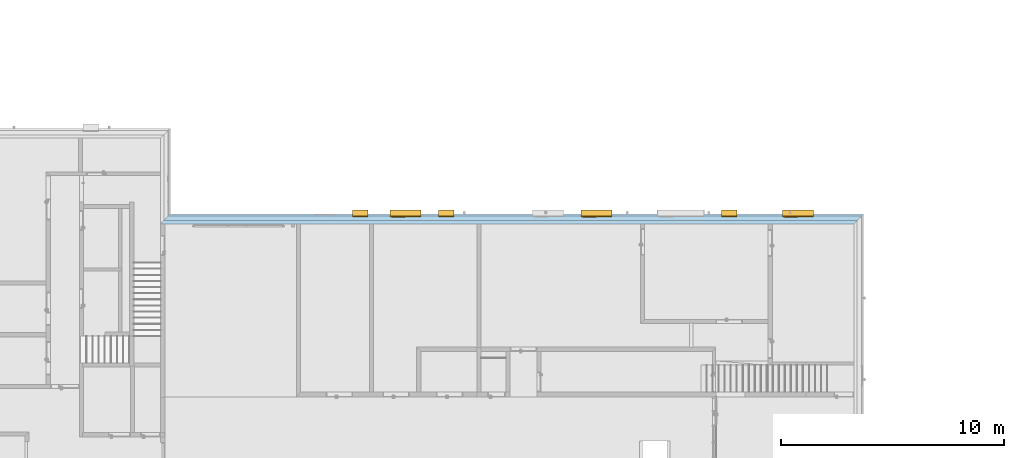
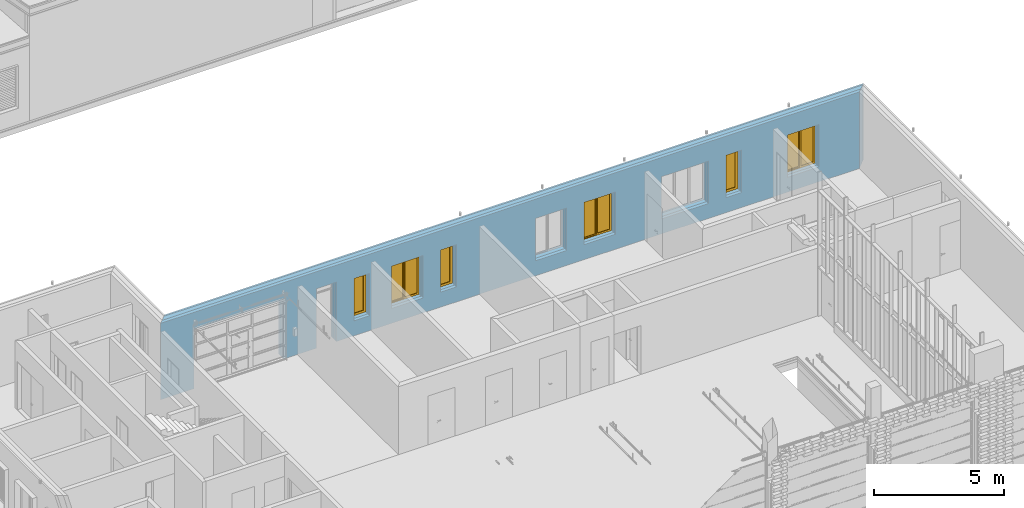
# One storey, part 20 of 62: 6 windows, 10 openings, 1 element without a shape of its own, plus 3 elements that do not belong to this part.
"""IFC2X3 building model written with IfcOpenShell, lengths in millimetres."""

from ifc_helpers import new_model, entity, si_unit, converted_unit, derived_unit, money_unit, direction, frame, origin_with_axes, origin_2d_with_axis, place, context, subcontext, project, spatial, polyline, rectangle, outline, extrude, open_shell, faceted_brep, surface_model, source, transform, mapped, material, type_object, element, fill, aggregate, save


model = new_model("IFC2X3")

# Units and contexts
model_context = context("Model", 3, precision=0.01, world=origin_with_axes(), true_north=direction((0.0, 1.0)))
body_context = subcontext(model_context, "Body", "Model", "MODEL_VIEW")
ifc_project = project(units=[si_unit("LENGTHUNIT", "METRE", prefix="MILLI"), si_unit("AREAUNIT", "SQUARE_METRE"), si_unit("VOLUMEUNIT", "CUBIC_METRE"), converted_unit("PLANEANGLEUNIT", "DEGREE", entity("IfcPlaneAngleMeasure", 0.0174532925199), si_unit("PLANEANGLEUNIT", "RADIAN"), dimensions=[0, 0, 0, 0, 0, 0, 0]), si_unit("SOLIDANGLEUNIT", "STERADIAN"), money_unit("EUR"), converted_unit("TIMEUNIT", "Year", entity("IfcTimeMeasure", 31556926.0), si_unit("TIMEUNIT", "SECOND"), dimensions=[0, 0, 1, 0, 0, 0, 0]), si_unit("MASSUNIT", "GRAM", prefix="KILO"), si_unit("THERMODYNAMICTEMPERATUREUNIT", "DEGREE_CELSIUS"), si_unit("LUMINOUSINTENSITYUNIT", "LUMEN"), si_unit("ENERGYUNIT", "JOULE", prefix="MEGA"), derived_unit("THERMALCONDUCTANCEUNIT", [(si_unit("POWERUNIT", "WATT"), 1), (si_unit("LENGTHUNIT", "METRE"), -1), (si_unit("THERMODYNAMICTEMPERATUREUNIT", "KELVIN"), -1)]), derived_unit("SPECIFICHEATCAPACITYUNIT", [(si_unit("ENERGYUNIT", "JOULE"), 1), (si_unit("MASSUNIT", "GRAM", prefix="KILO"), -1), (si_unit("THERMODYNAMICTEMPERATUREUNIT", "KELVIN"), -1)]), derived_unit("MASSDENSITYUNIT", [(si_unit("MASSUNIT", "GRAM", prefix="KILO"), 1), (si_unit("VOLUMEUNIT", "CUBIC_METRE"), -1)])], contexts=[model_context])

# Site, building, storey
site_placement = place(None, origin_with_axes())
site = spatial("IfcSite", under=ifc_project, at=site_placement, Name="KIRDE 14, ELVA", CompositionType="ELEMENT")
building_placement = place(site_placement, origin_with_axes())
building = spatial("IfcBuilding", under=site, at=building_placement, Name="PPA ja Päästeameti ühishoone", CompositionType="ELEMENT")
storey_placement = place(building_placement, origin_with_axes())
storey = spatial("IfcBuildingStorey", under=building, at=storey_placement, Name="Esimene korrus", CompositionType="ELEMENT", Elevation=0.0)

# Window
window_style_1 = type_object("IfcWindowStyle", Name="Double Window 24", ConstructionType="NOTDEFINED", OperationType="DOUBLE_PANEL_VERTICAL", ParameterTakesPrecedence=False, Sizeable=False)
shared_shape_1 = source(origin_with_axes(), body_context, "Body", "SurfaceModel", [
    faceted_brep([(700.0, -50.0, 0.0), (700.0, -130.0, 0.0), (-700.0, -130.0, 0.0), (-700.0, -50.0, 0.0), (700.0, -50.0, 2000.0), (700.0, -130.0, 2000.0), (-700.0, -130.0, 2000.0), (695.0, -130.0, 5.0), (-695.0, -130.0, 5.0), (-695.0, -130.0, 1995.0), (695.0, -130.0, 1995.0), (-700.0, -50.0, 2000.0), (695.0, -50.0, 5.0), (695.0, -50.0, 1995.0), (-695.0, -50.0, 1995.0), (-695.0, -50.0, 5.0)], [[[0, 1, 2, 3]], [[4, 5, 1, 0]], [[1, 5, 6, 2], [7, 8, 9, 10]], [[3, 2, 6, 11]], [[0, 3, 11, 4], [12, 13, 14, 15]], [[11, 6, 5, 4]], [[15, 8, 7, 12]], [[14, 9, 8, 15]], [[13, 10, 9, 14]], [[12, 7, 10, 13]]]),
    faceted_brep([(700.0, -330.0, 0.0), (695.0, -330.0, 5.0), (695.0, -130.0, 5.0), (700.0, -130.0, 0.0), (700.0, -330.0, 2000.0), (695.0, -330.0, 1995.0), (695.0, -130.0, 1995.0), (700.0, -130.0, 2000.0)], [[[0, 1, 2, 3]], [[0, 4, 5, 1]], [[1, 5, 6, 2]], [[3, 2, 6, 7]], [[4, 0, 3, 7]], [[5, 4, 7, 6]]]),
    faceted_brep([(-700.0, -330.0, 2000.0), (-695.0, -330.0, 1995.0), (-695.0, -130.0, 1995.0), (-700.0, -130.0, 2000.0), (-700.0, -330.0, 0.0), (-695.0, -330.0, 5.0), (-695.0, -130.0, 5.0), (-700.0, -130.0, 0.0)], [[[0, 1, 2, 3]], [[0, 4, 5, 1]], [[1, 5, 6, 2]], [[3, 2, 6, 7]], [[4, 0, 3, 7]], [[5, 4, 7, 6]]]),
    faceted_brep([(-700.0, -330.0, 0.0), (-695.0, -330.0, 5.0), (-695.0, -130.0, 5.0), (-700.0, -130.0, 0.0), (700.0, -330.0, 0.0), (695.0, -330.0, 5.0), (695.0, -130.0, 5.0), (700.0, -130.0, 0.0)], [[[0, 1, 2, 3]], [[0, 4, 5, 1]], [[1, 5, 6, 2]], [[3, 2, 6, 7]], [[4, 0, 3, 7]], [[5, 4, 7, 6]]]),
    faceted_brep([(700.0, -330.0, 2000.0), (695.0, -330.0, 1995.0), (695.0, -130.0, 1995.0), (700.0, -130.0, 2000.0), (-700.0, -330.0, 2000.0), (-695.0, -330.0, 1995.0), (-695.0, -130.0, 1995.0), (-700.0, -130.0, 2000.0)], [[[0, 1, 2, 3]], [[0, 4, 5, 1]], [[1, 5, 6, 2]], [[3, 2, 6, 7]], [[4, 0, 3, 7]], [[5, 4, 7, 6]]]),
    faceted_brep([(635.0, 0.0, 1910.0), (635.0, -25.0, 1910.0), (610.0, -25.0, 1910.0), (610.0, -50.0, 1910.0), (700.0, -50.0, 1910.0), (700.0, 0.0, 1910.0), (635.0, 0.0, 90.0), (635.0, -25.0, 90.0), (610.0, -25.0, 90.0), (610.0, -50.0, 90.0), (700.0, -50.0, 90.0), (700.0, 0.0, 90.0)], [[[0, 1, 2, 3, 4, 5]], [[1, 0, 6, 7]], [[8, 2, 1, 7]], [[2, 8, 9, 3]], [[4, 3, 9, 10]], [[5, 4, 10, 11]], [[6, 0, 5, 11]], [[7, 6, 11, 10, 9, 8]]]),
    faceted_brep([(20.0, -25.0, 1910.0), (-5.0, -25.0, 1910.0), (-5.0, 0.0, 1910.0), (-70.0, 0.0, 1910.0), (-70.0, -50.0, 1910.0), (20.0, -50.0, 1910.0), (20.0, -25.0, 90.0), (-5.0, -25.0, 90.0), (-5.0, 0.0, 90.0), (-70.0, 0.0, 90.0), (-70.0, -50.0, 90.0), (20.0, -50.0, 90.0)], [[[0, 1, 2, 3, 4, 5]], [[1, 0, 6, 7]], [[8, 2, 1, 7]], [[2, 8, 9, 3]], [[9, 10, 4, 3]], [[10, 11, 5, 4]], [[6, 0, 5, 11]], [[7, 6, 11, 10, 9, 8]]]),
    faceted_brep([(20.0, -25.0, 90.0), (-5.0, -25.0, 90.0), (-5.0, 0.0, 90.0), (-70.0, 0.0, 90.0), (-70.0, -50.0, 90.0), (20.0, -50.0, 90.0), (610.0, -25.0, 90.0), (635.0, -25.0, 90.0), (635.0, -25.0, 65.0), (-5.0, -25.0, 65.0), (-5.0, 0.0, 65.0), (635.0, 0.0, 65.0), (635.0, 0.0, 90.0), (700.0, 0.0, 90.0), (700.0, 0.0, 0.0), (-700.0, 0.0, 0.0), (-700.0, 0.0, 90.0), (-610.0, 0.0, 90.0), (-610.0, -50.0, 90.0), (700.0, -50.0, 90.0), (610.0, -50.0, 90.0), (-700.0, -50.0, 90.0), (-700.0, -50.0, 0.0), (700.0, -50.0, 0.0)], [[[0, 1, 2, 3, 4, 5]], [[1, 0, 6, 7, 8, 9]], [[10, 2, 1, 9]], [[11, 12, 13, 14, 15, 16, 17, 3, 2, 10]], [[17, 18, 4, 3]], [[19, 20, 5, 4, 18, 21, 22, 23]], [[6, 0, 5, 20]], [[7, 6, 20, 19, 13, 12]], [[7, 12, 11, 8]], [[11, 10, 9, 8]], [[13, 19, 23, 14]], [[14, 23, 22, 15]], [[15, 22, 21, 16]], [[16, 21, 18, 17]]]),
    faceted_brep([(635.0, 0.0, 1910.0), (635.0, 0.0, 1935.0), (-5.0, 0.0, 1935.0), (-5.0, 0.0, 1910.0), (-70.0, 0.0, 1910.0), (-610.0, 0.0, 1910.0), (-700.0, 0.0, 1910.0), (-700.0, 0.0, 2000.0), (700.0, 0.0, 2000.0), (700.0, 0.0, 1910.0), (635.0, -25.0, 1910.0), (635.0, -25.0, 1935.0), (-5.0, -25.0, 1935.0), (-5.0, -25.0, 1910.0), (20.0, -25.0, 1910.0), (20.0, -50.0, 1910.0), (-70.0, -50.0, 1910.0), (-610.0, -50.0, 1910.0), (-700.0, -50.0, 1910.0), (-700.0, -50.0, 2000.0), (700.0, -50.0, 2000.0), (700.0, -50.0, 1910.0), (610.0, -50.0, 1910.0), (610.0, -25.0, 1910.0)], [[[0, 1, 2, 3, 4, 5, 6, 7, 8, 9]], [[1, 0, 10, 11]], [[2, 1, 11, 12]], [[3, 2, 12, 13]], [[13, 14, 15, 16, 4, 3]], [[4, 16, 17, 5]], [[5, 17, 18, 6]], [[6, 18, 19, 7]], [[7, 19, 20, 8]], [[8, 20, 21, 9]], [[10, 0, 9, 21, 22, 23]], [[14, 13, 12, 11, 10, 23]], [[14, 23, 22, 15]], [[16, 15, 22, 21, 20, 19, 18, 17]]]),
    faceted_brep([(-610.0, -50.0, 90.0), (-700.0, -50.0, 90.0), (-700.0, 0.0, 90.0), (-610.0, 0.0, 90.0), (-610.0, -50.0, 1910.0), (-700.0, -50.0, 1910.0), (-700.0, 0.0, 1910.0), (-610.0, 0.0, 1910.0)], [[[0, 1, 2, 3]], [[0, 4, 5, 1]], [[1, 5, 6, 2]], [[3, 2, 6, 7]], [[4, 0, 3, 7]], [[5, 4, 7, 6]]]),
    faceted_brep([(585.0, -25.0, 1885.0), (635.0, -25.0, 1885.0), (635.0, 25.0, 1885.0), (585.0, 25.0, 1885.0), (585.0, -25.0, 115.0), (635.0, -25.0, 115.0), (635.0, 25.0, 115.0), (585.0, 25.0, 115.0)], [[[0, 1, 2, 3]], [[0, 4, 5, 1]], [[1, 5, 6, 2]], [[3, 2, 6, 7]], [[4, 0, 3, 7]], [[5, 4, 7, 6]]]),
    faceted_brep([(45.0, -25.0, 115.0), (-5.0, -25.0, 115.0), (-5.0, 25.0, 115.0), (45.0, 25.0, 115.0), (45.0, -25.0, 1885.0), (-5.0, -25.0, 1885.0), (-5.0, 25.0, 1885.0), (45.0, 25.0, 1885.0)], [[[0, 1, 2, 3]], [[0, 4, 5, 1]], [[1, 5, 6, 2]], [[3, 2, 6, 7]], [[4, 0, 3, 7]], [[5, 4, 7, 6]]]),
    faceted_brep([(-5.0, -25.0, 65.0), (-5.0, -25.0, 115.0), (-5.0, 25.0, 115.0), (-5.0, 25.0, 65.0), (635.0, -25.0, 65.0), (635.0, -25.0, 115.0), (585.0, -25.0, 115.0), (45.0, -25.0, 115.0), (45.0, 25.0, 115.0), (585.0, 25.0, 115.0), (635.0, 25.0, 115.0), (635.0, 25.0, 65.0)], [[[0, 1, 2, 3]], [[0, 4, 5, 6, 7, 1]], [[1, 7, 8, 2]], [[3, 2, 8, 9, 10, 11]], [[4, 0, 3, 11]], [[5, 4, 11, 10]], [[6, 5, 10, 9]], [[7, 6, 9, 8]]]),
    faceted_brep([(635.0, -25.0, 1935.0), (635.0, -25.0, 1885.0), (635.0, 25.0, 1885.0), (635.0, 25.0, 1935.0), (-5.0, -25.0, 1935.0), (-5.0, -25.0, 1885.0), (45.0, -25.0, 1885.0), (585.0, -25.0, 1885.0), (585.0, 25.0, 1885.0), (45.0, 25.0, 1885.0), (-5.0, 25.0, 1885.0), (-5.0, 25.0, 1935.0)], [[[0, 1, 2, 3]], [[0, 4, 5, 6, 7, 1]], [[1, 7, 8, 2]], [[3, 2, 8, 9, 10, 11]], [[4, 0, 3, 11]], [[5, 4, 11, 10]], [[6, 5, 10, 9]], [[7, 6, 9, 8]]]),
    surface_model("IfcShellBasedSurfaceModel", [(585.0, -10.0, 115.0), (585.0, -10.0, 1885.0), (45.0, -10.0, 1885.0), (45.0, -10.0, 115.0)], [open_shell([[[0, 1, 2, 3]]])]),
    surface_model("IfcShellBasedSurfaceModel", [(585.0, 10.0, 115.0), (45.0, 10.0, 115.0), (45.0, 10.0, 1885.0), (585.0, 10.0, 1885.0)], [open_shell([[[0, 1, 2, 3]]])]),
    surface_model("IfcShellBasedSurfaceModel", [(-70.0, -35.0, 90.0), (-70.0, -35.0, 1910.0), (-610.0, -35.0, 1910.0), (-610.0, -35.0, 90.0)], [open_shell([[[0, 1, 2, 3]]])]),
    surface_model("IfcShellBasedSurfaceModel", [(-70.0, -15.0, 90.0), (-610.0, -15.0, 90.0), (-610.0, -15.0, 1910.0), (-70.0, -15.0, 1910.0)], [open_shell([[[0, 1, 2, 3]]])]),
])
wall_placement = place(storey_placement, frame((8900.00012331, 20749.5916292, 0.0), z_axis=(0.0, 0.0, 1.0), x_axis=(1.0, 3.88740030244e-10, 0.0)))
opening_3_placement = place(wall_placement, frame((28639.6518059, 0.0, 700.0), z_axis=(0.0, 0.0, 1.0), x_axis=(1.0, 0.0, 0.0)))
window_1_placement = place(opening_3_placement, frame((700.0, 0.0, 0.0), z_axis=(0.0, 0.0, 1.0), x_axis=(-1.0, 0.0, 0.0)))
window_1 = element("IfcWindow", 1, at=window_1_placement, inside=storey, type_object=window_style_1, Name="A-05", ObjectType="WINDOW", OverallHeight=2000.0, OverallWidth=1400.0, context=body_context, shape_type="MappedRepresentation", body=[
    mapped(shared_shape_1, transform((699.999999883, -299.999988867, 0.0))),
])

opening_4_placement = place(wall_placement, frame((19579.6518059, 0.0, 700.0), z_axis=(0.0, 0.0, 1.0), x_axis=(1.0, 0.0, 0.0)))
window_2_placement = place(opening_4_placement, frame((700.0, 0.0, 0.0), z_axis=(0.0, 0.0, 1.0), x_axis=(-1.0, 0.0, 0.0)))
window_2 = element("IfcWindow", 2, at=window_2_placement, inside=storey, type_object=window_style_1, Name="A-05", ObjectType="WINDOW", OverallHeight=2000.0, OverallWidth=1400.0, context=body_context, shape_type="MappedRepresentation", body=[
    mapped(shared_shape_1, transform((699.999999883, -299.999992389, 0.0))),
])

opening_6_placement = place(wall_placement, frame((10999.651806, 0.0, 700.0), z_axis=(0.0, 0.0, 1.0), x_axis=(1.0, 0.0, 0.0)))
window_3_placement = place(opening_6_placement, frame((700.0, 0.0, 0.0), z_axis=(0.0, 0.0, 1.0), x_axis=(-1.0, 0.0, 0.0)))
window_3 = element("IfcWindow", 3, at=window_3_placement, inside=storey, type_object=window_style_1, Name="A-05", ObjectType="WINDOW", OverallHeight=2000.0, OverallWidth=1400.0, context=body_context, shape_type="MappedRepresentation", body=[
    mapped(shared_shape_1, transform((699.999999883, -299.999995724, 0.0))),
])

window_style_2 = type_object("IfcWindowStyle", Name="Window 24", ConstructionType="NOTDEFINED", OperationType="SINGLE_PANEL", ParameterTakesPrecedence=False, Sizeable=False)
shared_shape_2 = source(origin_with_axes(), body_context, "Body", "SurfaceModel", [
    faceted_brep([(350.0, -50.0, 0.0), (350.0, -130.0, 0.0), (-350.0, -130.0, 0.0), (-350.0, -50.0, 0.0), (350.0, -50.0, 2000.0), (350.0, -130.0, 2000.0), (-350.0, -130.0, 2000.0), (345.0, -130.0, 5.0), (-345.0, -130.0, 5.0), (-345.0, -130.0, 1995.0), (345.0, -130.0, 1995.0), (-350.0, -50.0, 2000.0), (345.0, -50.0, 5.0), (345.0, -50.0, 1995.0), (-345.0, -50.0, 1995.0), (-345.0, -50.0, 5.0)], [[[0, 1, 2, 3]], [[4, 5, 1, 0]], [[1, 5, 6, 2], [7, 8, 9, 10]], [[3, 2, 6, 11]], [[0, 3, 11, 4], [12, 13, 14, 15]], [[11, 6, 5, 4]], [[15, 8, 7, 12]], [[14, 9, 8, 15]], [[13, 10, 9, 14]], [[12, 7, 10, 13]]]),
    faceted_brep([(350.0, -330.0, 0.0), (345.0, -330.0, 5.0), (345.0, -130.0, 5.0), (350.0, -130.0, 0.0), (350.0, -330.0, 2000.0), (345.0, -330.0, 1995.0), (345.0, -130.0, 1995.0), (350.0, -130.0, 2000.0)], [[[0, 1, 2, 3]], [[0, 4, 5, 1]], [[1, 5, 6, 2]], [[3, 2, 6, 7]], [[4, 0, 3, 7]], [[5, 4, 7, 6]]]),
    faceted_brep([(-350.0, -330.0, 2000.0), (-345.0, -330.0, 1995.0), (-345.0, -130.0, 1995.0), (-350.0, -130.0, 2000.0), (-350.0, -330.0, 0.0), (-345.0, -330.0, 5.0), (-345.0, -130.0, 5.0), (-350.0, -130.0, 0.0)], [[[0, 1, 2, 3]], [[0, 4, 5, 1]], [[1, 5, 6, 2]], [[3, 2, 6, 7]], [[4, 0, 3, 7]], [[5, 4, 7, 6]]]),
    faceted_brep([(-350.0, -330.0, 0.0), (-345.0, -330.0, 5.0), (-345.0, -130.0, 5.0), (-350.0, -130.0, 0.0), (350.0, -330.0, 0.0), (345.0, -330.0, 5.0), (345.0, -130.0, 5.0), (350.0, -130.0, 0.0)], [[[0, 1, 2, 3]], [[0, 4, 5, 1]], [[1, 5, 6, 2]], [[3, 2, 6, 7]], [[4, 0, 3, 7]], [[5, 4, 7, 6]]]),
    faceted_brep([(350.0, -330.0, 2000.0), (345.0, -330.0, 1995.0), (345.0, -130.0, 1995.0), (350.0, -130.0, 2000.0), (-350.0, -330.0, 2000.0), (-345.0, -330.0, 1995.0), (-345.0, -130.0, 1995.0), (-350.0, -130.0, 2000.0)], [[[0, 1, 2, 3]], [[0, 4, 5, 1]], [[1, 5, 6, 2]], [[3, 2, 6, 7]], [[4, 0, 3, 7]], [[5, 4, 7, 6]]]),
    faceted_brep([(235.0, -50.0, 1885.0), (350.0, -50.0, 1885.0), (350.0, 0.0, 1885.0), (235.0, 0.0, 1885.0), (235.0, -50.0, 115.0), (350.0, -50.0, 115.0), (350.0, 0.0, 115.0), (235.0, 0.0, 115.0)], [[[0, 1, 2, 3]], [[0, 4, 5, 1]], [[1, 5, 6, 2]], [[3, 2, 6, 7]], [[4, 0, 3, 7]], [[5, 4, 7, 6]]]),
    faceted_brep([(-235.0, -50.0, 115.0), (-350.0, -50.0, 115.0), (-350.0, 0.0, 115.0), (-235.0, 0.0, 115.0), (-235.0, -50.0, 1885.0), (-350.0, -50.0, 1885.0), (-350.0, 0.0, 1885.0), (-235.0, 0.0, 1885.0)], [[[0, 1, 2, 3]], [[0, 4, 5, 1]], [[1, 5, 6, 2]], [[3, 2, 6, 7]], [[4, 0, 3, 7]], [[5, 4, 7, 6]]]),
    faceted_brep([(235.0, -50.0, 115.0), (350.0, -50.0, 115.0), (350.0, 0.0, 115.0), (235.0, 0.0, 115.0), (-235.0, -50.0, 115.0), (-350.0, -50.0, 115.0), (-350.0, -50.0, 0.0), (350.0, -50.0, 0.0), (350.0, 0.0, 0.0), (-350.0, 0.0, 0.0), (-350.0, 0.0, 115.0), (-235.0, 0.0, 115.0)], [[[0, 1, 2, 3]], [[0, 4, 5, 6, 7, 1]], [[1, 7, 8, 2]], [[3, 2, 8, 9, 10, 11]], [[4, 0, 3, 11]], [[5, 4, 11, 10]], [[6, 5, 10, 9]], [[7, 6, 9, 8]]]),
    faceted_brep([(-235.0, -50.0, 1885.0), (-350.0, -50.0, 1885.0), (-350.0, 0.0, 1885.0), (-235.0, 0.0, 1885.0), (235.0, -50.0, 1885.0), (350.0, -50.0, 1885.0), (350.0, -50.0, 2000.0), (-350.0, -50.0, 2000.0), (-350.0, 0.0, 2000.0), (350.0, 0.0, 2000.0), (350.0, 0.0, 1885.0), (235.0, 0.0, 1885.0)], [[[0, 1, 2, 3]], [[0, 4, 5, 6, 7, 1]], [[1, 7, 8, 2]], [[3, 2, 8, 9, 10, 11]], [[4, 0, 3, 11]], [[5, 4, 11, 10]], [[6, 5, 10, 9]], [[7, 6, 9, 8]]]),
    surface_model("IfcShellBasedSurfaceModel", [(235.0, -35.0, 115.0), (235.0, -35.0, 1885.0), (-235.0, -35.0, 1885.0), (-235.0, -35.0, 115.0)], [open_shell([[[0, 1, 2, 3]]])]),
    surface_model("IfcShellBasedSurfaceModel", [(235.0, -15.0, 115.0), (-235.0, -15.0, 115.0), (-235.0, -15.0, 1885.0), (235.0, -15.0, 1885.0)], [open_shell([[[0, 1, 2, 3]]])]),
])
opening_5_placement = place(wall_placement, frame((25549.6518059, 0.0, 700.0), z_axis=(0.0, 0.0, 1.0), x_axis=(1.0, 0.0, 0.0)))
window_4_placement = place(opening_5_placement, frame((350.0, 0.0, 0.0), z_axis=(0.0, 0.0, 1.0), x_axis=(-1.0, 0.0, 0.0)))
window_4 = element("IfcWindow", 4, at=window_4_placement, inside=storey, type_object=window_style_2, Name="A-01", ObjectType="WINDOW", OverallHeight=2000.0, OverallWidth=700.0, context=body_context, shape_type="MappedRepresentation", body=[
    mapped(shared_shape_2, transform((349.999999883, -299.999990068, 0.0))),
])

opening_7_placement = place(wall_placement, frame((12829.6518059, 0.0, 700.0), z_axis=(0.0, 0.0, 1.0), x_axis=(1.0, 0.0, 0.0)))
window_5_placement = place(opening_7_placement, frame((350.0, 0.0, 0.0), z_axis=(0.0, 0.0, 1.0), x_axis=(-1.0, 0.0, 0.0)))
window_5 = element("IfcWindow", 5, at=window_5_placement, inside=storey, type_object=window_style_2, Name="A-01", ObjectType="WINDOW", OverallHeight=2000.0, OverallWidth=700.0, context=body_context, shape_type="MappedRepresentation", body=[
    mapped(shared_shape_2, transform((349.999999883, -299.999995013, 0.0))),
])

opening_8_placement = place(wall_placement, frame((8972.13083165, 0.0, 700.0), z_axis=(0.0, 0.0, 1.0), x_axis=(1.0, 0.0, 0.0)))
window_6_placement = place(opening_8_placement, frame((350.0, 0.0, 0.0), z_axis=(0.0, 0.0, 1.0), x_axis=(-1.0, 0.0, 0.0)))
window_6 = element("IfcWindow", 6, at=window_6_placement, inside=storey, type_object=window_style_2, Name="A-01", ObjectType="WINDOW", OverallHeight=2000.0, OverallWidth=700.0, context=body_context, shape_type="MappedRepresentation", body=[
    mapped(shared_shape_2, transform((349.999999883, -299.999996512, 0.0))),
])

# Wall, openings
wall_type = type_object("IfcWallType", Name="VS-01 430", PredefinedType="NOTDEFINED")
wall = element("IfcWall", 7, at=wall_placement, inside=storey, type_object=wall_type, Name="VS-01")
opening_1_placement = place(wall_placement, frame((17399.6518059, 0.0, 700.0), z_axis=(0.0, 0.0, 1.0), x_axis=(1.0, 0.0, 0.0)))
element("IfcOpeningElement", 8, at=opening_1_placement, cuts=wall, Name="A-05", context=body_context, shape_type="SweptSolid", body=[
    extrude(rectangle(XDim=1400.0, YDim=2000.0, at=origin_2d_with_axis()), frame((1.36058275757e-07, 349.999993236, 1000.0), z_axis=(-3.88740030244e-10, -1.0, 0.0), x_axis=(1.0, -3.88740152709e-10, 0.0)), (0.0, 0.0, 1.0), 780.0),
    extrude(rectangle(XDim=1400.0, YDim=2000.0, at=origin_2d_with_axis()), frame((1.36058275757e-07, 349.999993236, 1000.0), z_axis=(3.88740030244e-10, 1.0, 0.0), x_axis=(1.0, -3.88740152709e-10, 0.0)), (0.0, 0.0, 1.0), 510.0),
    extrude(rectangle(XDim=1400.0, YDim=2000.0, at=origin_2d_with_axis()), frame((1.67155178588e-07, 429.999993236, 1000.0), z_axis=(3.88740030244e-10, 1.0, 0.0), x_axis=(1.0, -3.88740152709e-10, 0.0)), (0.0, 0.0, 1.0), 510.0),
])
opening_2_placement = place(wall_placement, frame((23369.6518059, 0.0, 700.0), z_axis=(0.0, 0.0, 1.0), x_axis=(1.0, 0.0, 0.0)))
element("IfcOpeningElement", 9, at=opening_2_placement, cuts=wall, Name="A-09", context=body_context, shape_type="SweptSolid", body=[
    extrude(rectangle(XDim=2100.0, YDim=2000.0, at=origin_2d_with_axis()), frame((1.36061828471e-07, 349.999990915, 1000.0), z_axis=(-3.88740030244e-10, -1.0, 0.0), x_axis=(1.0, -3.88740152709e-10, 0.0)), (0.0, 0.0, 1.0), 780.0),
    extrude(rectangle(XDim=2100.0, YDim=2000.0, at=origin_2d_with_axis()), frame((1.36061828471e-07, 349.999990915, 1000.0), z_axis=(3.88740030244e-10, 1.0, 0.0), x_axis=(1.0, -3.88740152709e-10, 0.0)), (0.0, 0.0, 1.0), 510.0),
    extrude(rectangle(XDim=2140.0, YDim=2040.0, at=origin_2d_with_axis()), frame((1.67162284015e-07, 429.999990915, 1000.0), z_axis=(3.88740030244e-10, 1.0, 0.0), x_axis=(1.0, -3.88740152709e-10, 0.0)), (0.0, 0.0, 1.0), 510.0),
])
opening_3 = element("IfcOpeningElement", 10, at=opening_3_placement, cuts=wall, Name="A-05", context=body_context, shape_type="SweptSolid", body=[
    extrude(rectangle(XDim=1400.0, YDim=2000.0, at=origin_2d_with_axis()), frame((1.36061828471e-07, 349.999988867, 1000.0), z_axis=(-3.88740030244e-10, -1.0, 0.0), x_axis=(1.0, -3.88740152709e-10, 0.0)), (0.0, 0.0, 1.0), 780.0),
    extrude(rectangle(XDim=1400.0, YDim=2000.0, at=origin_2d_with_axis()), frame((1.36061828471e-07, 349.999988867, 1000.0), z_axis=(3.88740030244e-10, 1.0, 0.0), x_axis=(1.0, -3.88740152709e-10, 0.0)), (0.0, 0.0, 1.0), 510.0),
    extrude(rectangle(XDim=1400.0, YDim=2000.0, at=origin_2d_with_axis()), frame((1.67162284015e-07, 429.999988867, 1000.0), z_axis=(3.88740030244e-10, 1.0, 0.0), x_axis=(1.0, -3.88740152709e-10, 0.0)), (0.0, 0.0, 1.0), 510.0),
])

fill(opening_3, window_1)

# Opening
opening_4 = element("IfcOpeningElement", 11, at=opening_4_placement, cuts=wall, Name="A-05", context=body_context, shape_type="SweptSolid", body=[
    extrude(rectangle(XDim=1400.0, YDim=2000.0, at=origin_2d_with_axis()), frame((1.36058275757e-07, 349.999992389, 1000.0), z_axis=(-3.88740030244e-10, -1.0, 0.0), x_axis=(1.0, -3.88740152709e-10, 0.0)), (0.0, 0.0, 1.0), 780.0),
    extrude(rectangle(XDim=1400.0, YDim=2000.0, at=origin_2d_with_axis()), frame((1.36058275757e-07, 349.999992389, 1000.0), z_axis=(3.88740030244e-10, 1.0, 0.0), x_axis=(1.0, -3.88740152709e-10, 0.0)), (0.0, 0.0, 1.0), 510.0),
    extrude(rectangle(XDim=1400.0, YDim=2000.0, at=origin_2d_with_axis()), frame((1.67155178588e-07, 429.999992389, 1000.0), z_axis=(3.88740030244e-10, 1.0, 0.0), x_axis=(1.0, -3.88740152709e-10, 0.0)), (0.0, 0.0, 1.0), 510.0),
])

fill(opening_4, window_2)

opening_5 = element("IfcOpeningElement", 12, at=opening_5_placement, cuts=wall, Name="A-01", context=body_context, shape_type="SweptSolid", body=[
    extrude(rectangle(XDim=700.0, YDim=2000.0, at=origin_2d_with_axis()), frame((1.36061828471e-07, 349.999990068, 1000.0), z_axis=(-3.88740030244e-10, -1.0, 0.0), x_axis=(1.0, -3.88740152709e-10, 0.0)), (0.0, 0.0, 1.0), 780.0),
    extrude(rectangle(XDim=700.0, YDim=2000.0, at=origin_2d_with_axis()), frame((1.36061828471e-07, 349.999990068, 1000.0), z_axis=(3.88740030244e-10, 1.0, 0.0), x_axis=(1.0, -3.88740152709e-10, 0.0)), (0.0, 0.0, 1.0), 510.0),
    extrude(rectangle(XDim=700.0, YDim=2000.0, at=origin_2d_with_axis()), frame((1.67162284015e-07, 429.999990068, 1000.0), z_axis=(3.88740030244e-10, 1.0, 0.0), x_axis=(1.0, -3.88740152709e-10, 0.0)), (0.0, 0.0, 1.0), 510.0),
])

fill(opening_5, window_4)

opening_6 = element("IfcOpeningElement", 13, at=opening_6_placement, cuts=wall, Name="A-05", context=body_context, shape_type="SweptSolid", body=[
    extrude(rectangle(XDim=1400.0, YDim=2000.0, at=origin_2d_with_axis()), frame((1.36058275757e-07, 349.999995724, 1000.0), z_axis=(-3.88740030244e-10, -1.0, 0.0), x_axis=(1.0, -3.88740152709e-10, 0.0)), (0.0, 0.0, 1.0), 780.0),
    extrude(rectangle(XDim=1400.0, YDim=2000.0, at=origin_2d_with_axis()), frame((1.36058275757e-07, 349.999995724, 1000.0), z_axis=(3.88740030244e-10, 1.0, 0.0), x_axis=(1.0, -3.88740152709e-10, 0.0)), (0.0, 0.0, 1.0), 510.0),
    extrude(rectangle(XDim=1400.0, YDim=2000.0, at=origin_2d_with_axis()), frame((1.67155178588e-07, 429.999995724, 1000.0), z_axis=(3.88740030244e-10, 1.0, 0.0), x_axis=(1.0, -3.88740152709e-10, 0.0)), (0.0, 0.0, 1.0), 510.0),
])

fill(opening_6, window_3)

opening_7 = element("IfcOpeningElement", 14, at=opening_7_placement, cuts=wall, Name="A-01", context=body_context, shape_type="SweptSolid", body=[
    extrude(rectangle(XDim=700.0, YDim=2000.0, at=origin_2d_with_axis()), frame((1.36058275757e-07, 349.999995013, 1000.0), z_axis=(-3.88740030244e-10, -1.0, 0.0), x_axis=(1.0, -3.88740152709e-10, 0.0)), (0.0, 0.0, 1.0), 780.0),
    extrude(rectangle(XDim=700.0, YDim=2000.0, at=origin_2d_with_axis()), frame((1.36058275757e-07, 349.999995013, 1000.0), z_axis=(3.88740030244e-10, 1.0, 0.0), x_axis=(1.0, -3.88740152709e-10, 0.0)), (0.0, 0.0, 1.0), 510.0),
    extrude(rectangle(XDim=700.0, YDim=2000.0, at=origin_2d_with_axis()), frame((1.67155178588e-07, 429.999995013, 1000.0), z_axis=(3.88740030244e-10, 1.0, 0.0), x_axis=(1.0, -3.88740152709e-10, 0.0)), (0.0, 0.0, 1.0), 510.0),
])

fill(opening_7, window_5)

opening_8 = element("IfcOpeningElement", 15, at=opening_8_placement, cuts=wall, Name="A-01", context=body_context, shape_type="SweptSolid", body=[
    extrude(rectangle(XDim=700.0, YDim=2000.0, at=origin_2d_with_axis()), frame((1.36058275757e-07, 349.999996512, 1000.0), z_axis=(-3.88740030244e-10, -1.0, 0.0), x_axis=(1.0, -3.88740152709e-10, 0.0)), (0.0, 0.0, 1.0), 780.0),
    extrude(rectangle(XDim=700.0, YDim=2000.0, at=origin_2d_with_axis()), frame((1.36058275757e-07, 349.999996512, 1000.0), z_axis=(3.88740030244e-10, 1.0, 0.0), x_axis=(1.0, -3.88740152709e-10, 0.0)), (0.0, 0.0, 1.0), 510.0),
    extrude(rectangle(XDim=700.0, YDim=2000.0, at=origin_2d_with_axis()), frame((1.67155178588e-07, 429.999996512, 1000.0), z_axis=(3.88740030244e-10, 1.0, 0.0), x_axis=(1.0, -3.88740152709e-10, 0.0)), (0.0, 0.0, 1.0), 510.0),
])

fill(opening_8, window_6)

opening_9_placement = place(wall_placement, frame((7392.13083172, 0.0, 0.0), z_axis=(0.0, 0.0, 1.0), x_axis=(1.0, 0.0, 0.0)))
element("IfcOpeningElement", 16, at=opening_9_placement, cuts=wall, Name="VU-03", context=body_context, shape_type="SweptSolid", body=[
    extrude(rectangle(XDim=900.0, YDim=2800.0, at=origin_2d_with_axis()), frame((-1.67158731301e-07, -430.0, 1400.0), z_axis=(-3.88740030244e-10, -1.0, 0.0), x_axis=(-1.0, 3.88740030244e-10, 0.0)), (0.0, 0.0, -1.0), 1290.0),
])

opening_10_placement = place(wall_placement, frame((3500.00001494, 0.0, 0.0), z_axis=(0.0, 0.0, 1.0), x_axis=(1.0, 0.0, 0.0)))
element("IfcOpeningElement", 17, at=opening_10_placement, cuts=wall, Name="GU-03", context=body_context, shape_type="SweptSolid", body=[
    extrude(outline(polyline([(2000.0, 0.0), (2000.0, 2800.0), (-2000.0, 2800.0), (-2000.0, 0.0), (2000.0, 0.0)])), frame((-1.67158731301e-07, -430.0, 0.0), z_axis=(3.88740030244e-10, 1.0, 0.0), x_axis=(-1.0, 3.88740152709e-10, 0.0)), (0.0, 0.0, 1.0), 860.0),
])

# Building element part
ifc_material_1 = material(Name="Raudbetoon Paneelid (2)")
building_element_part_1_placement = place(wall_placement, origin_with_axes())
building_element_part_1 = element("IfcBuildingElementPart", 18, at=building_element_part_1_placement, material=ifc_material_1, Name="Raudbetoon Paneelid (2)", context=body_context, shape_type="SweptSolid", body=[
    extrude(outline(polyline([(0.0, 0.0), (31144.7047591, 0.0), (31294.7047592, 150.0), (150.000000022, 150.0), (0.0, 0.0)])), origin_with_axes(), (0.0, 0.0, 1.0), 3600.0),
])

ifc_material_2 = material(Name="Vahtpolüstüreen (4)")
building_element_part_2_placement = place(wall_placement, origin_with_axes())
building_element_part_2 = element("IfcBuildingElementPart", 19, at=building_element_part_2_placement, material=ifc_material_2, Name="Vahtpolüstüreen (4)", context=body_context, shape_type="SweptSolid", body=[
    extrude(outline(polyline([(150.000000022, 150.0), (31294.7047592, 150.0), (31494.7047593, 350.0), (350.000000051, 350.0), (150.000000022, 150.0)])), origin_with_axes(), (0.0, 0.0, 1.0), 3600.0),
])

building_element_part_3_placement = place(wall_placement, origin_with_axes())
building_element_part_3 = element("IfcBuildingElementPart", 20, at=building_element_part_3_placement, material=ifc_material_1, Name="Raudbetoon Paneelid (2)", context=body_context, shape_type="SweptSolid", body=[
    extrude(outline(polyline([(350.000000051, 350.0), (31494.7047593, 350.0), (31574.7047593, 430.0), (430.000000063, 430.0), (350.000000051, 350.0)])), origin_with_axes(), (0.0, 0.0, 1.0), 3600.0),
])

aggregate(wall, [building_element_part_1, building_element_part_2, building_element_part_3])

save(model, "model.ifc")
